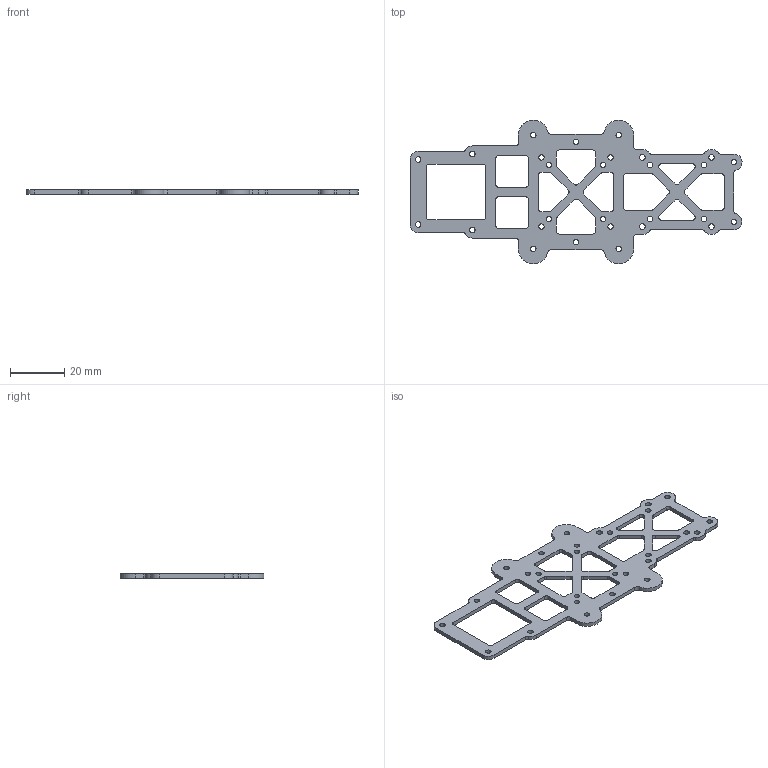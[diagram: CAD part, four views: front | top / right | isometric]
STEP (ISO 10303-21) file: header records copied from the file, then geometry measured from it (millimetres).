
FILE_DESCRIPTION(/* description */ (''),/* implementation_level */ '2;1');
FILE_NAME(/* name */ 'GoFlyPro - 3-inch - Baseplate-V1.step',/* time_stamp */ '2024-05-21T11:27:08+02:00',/* author */ (''),/* organization */ (''),/* preprocessor_version */ 'ST-DEVELOPER v20',/* originating_system */ 'Autodesk Translation Framework v12.20.1.177',/* authorisation */ '');
FILE_SCHEMA (('AUTOMOTIVE_DESIGN { 1 0 10303 214 3 1 1 }'));
Length unit declared in the file: millimetre
Products named in the file (1): GoFlyPro - 3Z - Baseplate-V1
Bounding box: 122.5 x 52.99 x 1.5 mm (x, y, z)
Volume: 3823.4 mm3; surface area: 6662.5 mm2
Topology: 1 solids, 1 shells, 176 faces, 522 edges, 348 vertices
Faces by surface type: cylinder 108, plane 68
Full cylindrical faces by diameter (mm): 2 x20, 2.1 x8
Entity records: 6171 total; most frequent: DIRECTION 1092, CARTESIAN_POINT 1047, ORIENTED_EDGE 1044, EDGE_CURVE 522, AXIS2_PLACEMENT_3D 393, VERTEX_POINT 348, LINE 306, VECTOR 306
